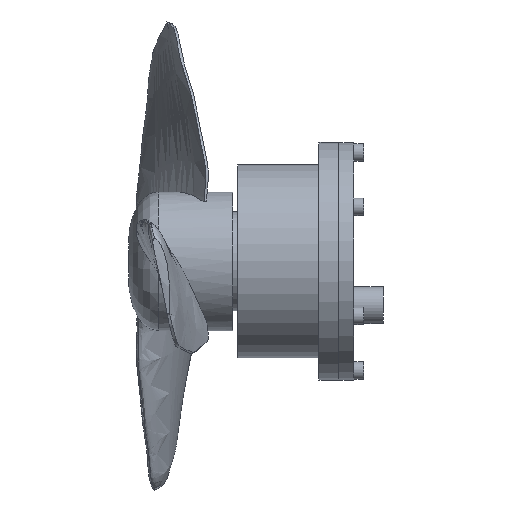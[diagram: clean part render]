
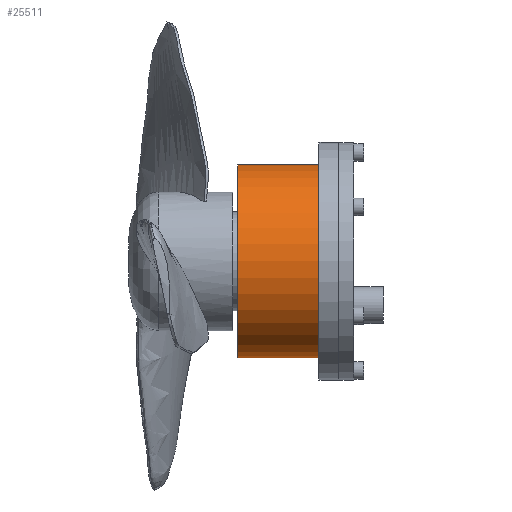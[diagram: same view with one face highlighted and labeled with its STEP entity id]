
A CAD part, top view. The second image highlights one B-rep face of the part: STEP entity #25511.
In plain terms, the highlighted cylindrical face has radius 39 mm (diameter 78 mm), a full revolution.
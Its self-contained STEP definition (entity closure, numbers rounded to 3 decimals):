
#25511 = ADVANCED_FACE('',(#25512),#25526,.T.);
#25512 = FACE_BOUND('',#25513,.F.);
#25513 = EDGE_LOOP('',(#25514,#25544,#25571,#25572));
#25514 = ORIENTED_EDGE('',*,*,#25515,.T.);
#25515 = EDGE_CURVE('',#25516,#25518,#25520,.T.);
#25516 = VERTEX_POINT('',#25517);
#25517 = CARTESIAN_POINT('',(64.8,39.,0.));
#25518 = VERTEX_POINT('',#25519);
#25519 = CARTESIAN_POINT('',(32.,39.,0.));
#25520 = SEAM_CURVE('',#25521,(#25525,#25537),.PCURVE_S1.);
#25521 = LINE('',#25522,#25523);
#25522 = CARTESIAN_POINT('',(72.8,39.,0.));
#25523 = VECTOR('',#25524,1.);
#25524 = DIRECTION('',(-1.,0.,0.));
#25525 = PCURVE('',#25526,#25531);
#25526 = CYLINDRICAL_SURFACE('',#25527,39.);
#25527 = AXIS2_PLACEMENT_3D('',#25528,#25529,#25530);
#25528 = CARTESIAN_POINT('',(32.,0.,0.));
#25529 = DIRECTION('',(-1.,-0.,-0.));
#25530 = DIRECTION('',(0.,1.,0.));
#25531 = DEFINITIONAL_REPRESENTATION('',(#25532),#25536);
#25532 = LINE('',#25533,#25534);
#25533 = CARTESIAN_POINT('',(-6.283,-40.8));
#25534 = VECTOR('',#25535,1.);
#25535 = DIRECTION('',(0.,1.));
#25536 = ( GEOMETRIC_REPRESENTATION_CONTEXT(2) 
PARAMETRIC_REPRESENTATION_CONTEXT() REPRESENTATION_CONTEXT('2D SPACE',''
  ) );
#25537 = PCURVE('',#25526,#25538);
#25538 = DEFINITIONAL_REPRESENTATION('',(#25539),#25543);
#25539 = LINE('',#25540,#25541);
#25540 = CARTESIAN_POINT('',(-0.,-40.8));
#25541 = VECTOR('',#25542,1.);
#25542 = DIRECTION('',(0.,1.));
#25543 = ( GEOMETRIC_REPRESENTATION_CONTEXT(2) 
PARAMETRIC_REPRESENTATION_CONTEXT() REPRESENTATION_CONTEXT('2D SPACE',''
  ) );
#25544 = ORIENTED_EDGE('',*,*,#25545,.F.);
#25545 = EDGE_CURVE('',#25518,#25518,#25546,.T.);
#25546 = SURFACE_CURVE('',#25547,(#25552,#25559),.PCURVE_S1.);
#25547 = CIRCLE('',#25548,39.);
#25548 = AXIS2_PLACEMENT_3D('',#25549,#25550,#25551);
#25549 = CARTESIAN_POINT('',(32.,0.,0.));
#25550 = DIRECTION('',(1.,0.,0.));
#25551 = DIRECTION('',(0.,1.,0.));
#25552 = PCURVE('',#25526,#25553);
#25553 = DEFINITIONAL_REPRESENTATION('',(#25554),#25558);
#25554 = LINE('',#25555,#25556);
#25555 = CARTESIAN_POINT('',(-0.,0.));
#25556 = VECTOR('',#25557,1.);
#25557 = DIRECTION('',(-1.,0.));
#25558 = ( GEOMETRIC_REPRESENTATION_CONTEXT(2) 
PARAMETRIC_REPRESENTATION_CONTEXT() REPRESENTATION_CONTEXT('2D SPACE',''
  ) );
#25559 = PCURVE('',#25560,#25565);
#25560 = PLANE('',#25561);
#25561 = AXIS2_PLACEMENT_3D('',#25562,#25563,#25564);
#25562 = CARTESIAN_POINT('',(32.,0.,0.)
  );
#25563 = DIRECTION('',(1.,0.,0.));
#25564 = DIRECTION('',(-0.,0.,1.));
#25565 = DEFINITIONAL_REPRESENTATION('',(#25566),#25570);
#25566 = CIRCLE('',#25567,39.);
#25567 = AXIS2_PLACEMENT_2D('',#25568,#25569);
#25568 = CARTESIAN_POINT('',(0.,0.));
#25569 = DIRECTION('',(0.,-1.));
#25570 = ( GEOMETRIC_REPRESENTATION_CONTEXT(2) 
PARAMETRIC_REPRESENTATION_CONTEXT() REPRESENTATION_CONTEXT('2D SPACE',''
  ) );
#25571 = ORIENTED_EDGE('',*,*,#25515,.F.);
#25572 = ORIENTED_EDGE('',*,*,#25573,.F.);
#25573 = EDGE_CURVE('',#25516,#25516,#25574,.T.);
#25574 = SURFACE_CURVE('',#25575,(#25580,#25587),.PCURVE_S1.);
#25575 = CIRCLE('',#25576,39.);
#25576 = AXIS2_PLACEMENT_3D('',#25577,#25578,#25579);
#25577 = CARTESIAN_POINT('',(64.8,0.,0.));
#25578 = DIRECTION('',(-1.,0.,0.));
#25579 = DIRECTION('',(0.,1.,0.));
#25580 = PCURVE('',#25526,#25581);
#25581 = DEFINITIONAL_REPRESENTATION('',(#25582),#25586);
#25582 = LINE('',#25583,#25584);
#25583 = CARTESIAN_POINT('',(-6.283,-32.8));
#25584 = VECTOR('',#25585,1.);
#25585 = DIRECTION('',(1.,-0.));
#25586 = ( GEOMETRIC_REPRESENTATION_CONTEXT(2) 
PARAMETRIC_REPRESENTATION_CONTEXT() REPRESENTATION_CONTEXT('2D SPACE',''
  ) );
#25587 = PCURVE('',#25588,#25593);
#25588 = PLANE('',#25589);
#25589 = AXIS2_PLACEMENT_3D('',#25590,#25591,#25592);
#25590 = CARTESIAN_POINT('',(64.8,0.,
    0.));
#25591 = DIRECTION('',(1.,0.,0.));
#25592 = DIRECTION('',(-0.,0.,1.));
#25593 = DEFINITIONAL_REPRESENTATION('',(#25594),#25602);
#25594 = ( BOUNDED_CURVE() B_SPLINE_CURVE(2,(#25595,#25596,#25597,#25598
    ,#25599,#25600,#25601),.UNSPECIFIED.,.T.,.F.) 
B_SPLINE_CURVE_WITH_KNOTS((1,2,2,2,2,1),(-2.094,0.,
    2.094,4.189,6.283,8.378),
.UNSPECIFIED.) CURVE() GEOMETRIC_REPRESENTATION_ITEM() 
RATIONAL_B_SPLINE_CURVE((1.,0.5,1.,0.5,1.,0.5,1.)) REPRESENTATION_ITEM(
  '') );
#25595 = CARTESIAN_POINT('',(0.,-39.));
#25596 = CARTESIAN_POINT('',(-67.55,-39.));
#25597 = CARTESIAN_POINT('',(-33.775,19.5));
#25598 = CARTESIAN_POINT('',(0.,78.));
#25599 = CARTESIAN_POINT('',(33.775,19.5));
#25600 = CARTESIAN_POINT('',(67.55,-39.));
#25601 = CARTESIAN_POINT('',(0.,-39.));
#25602 = ( GEOMETRIC_REPRESENTATION_CONTEXT(2) 
PARAMETRIC_REPRESENTATION_CONTEXT() REPRESENTATION_CONTEXT('2D SPACE',''
  ) );
